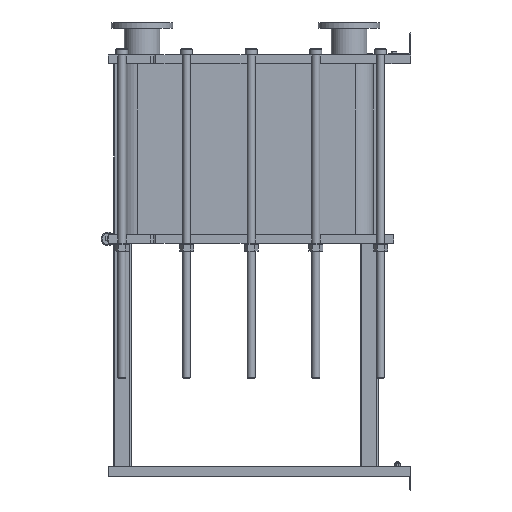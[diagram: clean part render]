
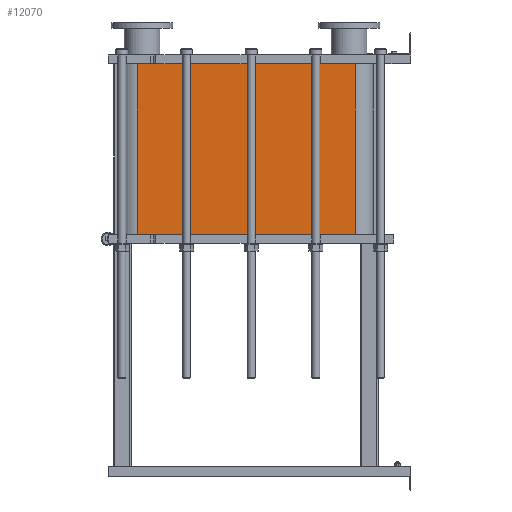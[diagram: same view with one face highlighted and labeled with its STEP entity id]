
A CAD part, left-side view. The second image highlights one B-rep face of the part: STEP entity #12070.
In plain terms, the highlighted planar face has unit normal (-1, 0, 0).
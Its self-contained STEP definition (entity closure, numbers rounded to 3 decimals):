
#1064=LINE('',#21140,#2164);
#1065=LINE('',#21144,#2165);
#1066=LINE('',#21146,#2166);
#1067=LINE('',#21147,#2167);
#2164=VECTOR('',#15790,10.);
#2165=VECTOR('',#15795,10.);
#2166=VECTOR('',#15796,10.);
#2167=VECTOR('',#15797,10.);
#3304=FACE_OUTER_BOUND('',#4091,.T.);
#4091=EDGE_LOOP('',(#9793,#9794,#9795,#9796));
#5677=VERTEX_POINT('',#21137);
#5678=VERTEX_POINT('',#21139);
#5679=VERTEX_POINT('',#21143);
#5680=VERTEX_POINT('',#21145);
#7118=EDGE_CURVE('',#5678,#5677,#1064,.T.);
#7120=EDGE_CURVE('',#5677,#5679,#1065,.T.);
#7121=EDGE_CURVE('',#5680,#5679,#1066,.T.);
#7122=EDGE_CURVE('',#5680,#5678,#1067,.T.);
#9793=ORIENTED_EDGE('',*,*,#7120,.T.);
#9794=ORIENTED_EDGE('',*,*,#7121,.F.);
#9795=ORIENTED_EDGE('',*,*,#7122,.T.);
#9796=ORIENTED_EDGE('',*,*,#7118,.T.);
#11441=PLANE('',#13191);
#12070=ADVANCED_FACE('',(#3304),#11441,.T.);
#13191=AXIS2_PLACEMENT_3D('',#21142,#15793,#15794);
#15790=DIRECTION('',(0.,0.,-1.));
#15793=DIRECTION('center_axis',(-1.,0.,0.));
#15794=DIRECTION('ref_axis',(0.,1.,0.));
#15795=DIRECTION('',(0.,-1.,0.));
#15796=DIRECTION('',(0.,0.,-1.));
#15797=DIRECTION('',(0.,1.,0.));
#21137=CARTESIAN_POINT('',(-248.152,1243.818,-776.25));
#21139=CARTESIAN_POINT('',(-248.152,1243.818,0.));
#21140=CARTESIAN_POINT('',(-248.152,1243.818,0.));
#21142=CARTESIAN_POINT('Origin',(-248.152,251.818,0.));
#21143=CARTESIAN_POINT('',(-248.152,251.818,-776.25));
#21144=CARTESIAN_POINT('',(-248.152,499.818,-776.25));
#21145=CARTESIAN_POINT('',(-248.152,251.818,0.));
#21146=CARTESIAN_POINT('',(-248.152,251.818,0.));
#21147=CARTESIAN_POINT('',(-248.152,251.818,0.));
